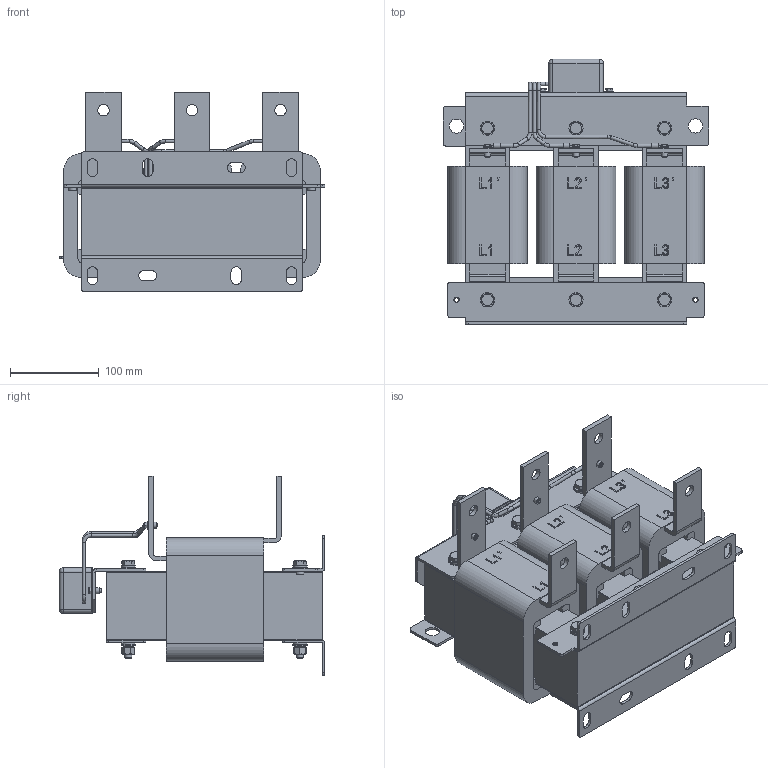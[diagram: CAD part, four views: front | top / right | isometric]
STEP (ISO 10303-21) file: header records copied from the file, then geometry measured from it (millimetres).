
FILE_DESCRIPTION(('STEP AP203'), '1');
FILE_NAME('IDUDT-132_290-4 _ dU_dt ôèëüòð 132 êÂò', '', ('UNSPECIFIED'), ('UNSPECIFIED'), 'C3D Converter', 'C3D Toolkit', '');
FILE_SCHEMA(('CONFIG_CONTROL_DESIGN'));
Length unit declared in the file: millimetre
Products named in the file (19): IDUDT-132/290-4
Assembly tree (75 placements, depth 2):
  IDUDT-132/290-4
    (unnamed)
    (unnamed)
    (unnamed)
    (unnamed)
    (unnamed)
    (unnamed)  x6
    (unnamed)  x24
    (unnamed)  x6
    (unnamed)  x6
    (unnamed)  x6
    (unnamed)
    (unnamed)  x5
    (unnamed)  x5
    (unnamed)  x3
    (unnamed)  x3
    (unnamed)  x3
    (unnamed)
    (unnamed)
Bounding box: 300 x 300 x 225 mm (x, y, z)
Volume: 6514397.9 mm3; surface area: 1030983.6 mm2
Topology: 91 solids, 91 shells, 1207 faces, 2770 edges, 1800 vertices
Faces by surface type: plane 747, cylinder 294, cone 122, bspline 27, torus 13, sphere 4
Full cylindrical faces by diameter (mm): 3 x8, 4 x26, 4.3 x3, 4.407 x3, 5 x2, 6.02 x3, 6.917 x6, 7 x5, 8 x6, 8.68 x6, 9 x31, 11 x30, 11.63 x6, 12.88 x6, 13 x6, 16 x26
Entity records: 39779 total; most frequent: CARTESIAN_POINT 16799, DIRECTION 3097, ORIENTED_EDGE 3048, EDGE_CURVE 1524, AXIS2_PLACEMENT_3D 1060, VERTEX_POINT 1059, LINE 977, VECTOR 977
